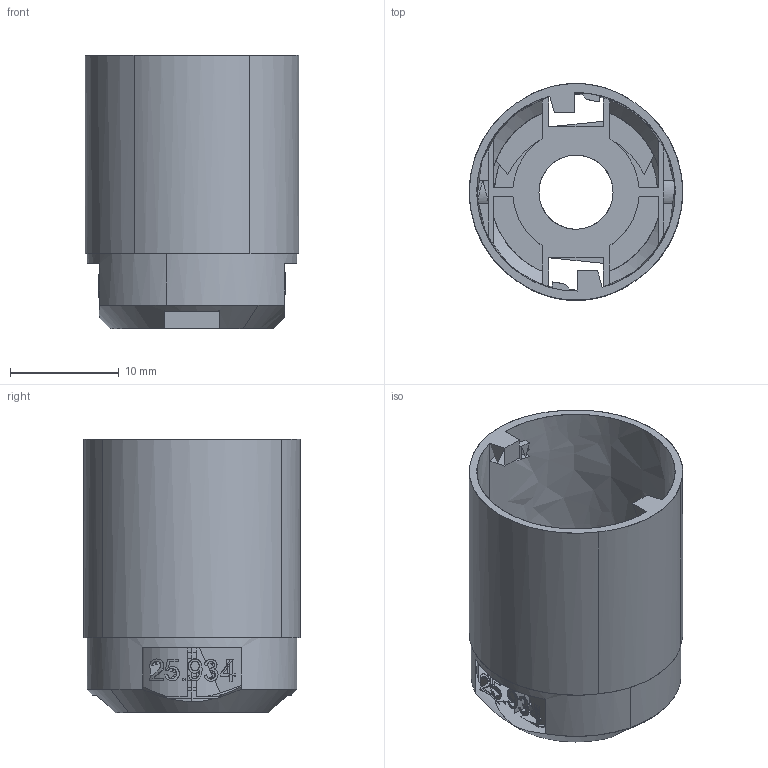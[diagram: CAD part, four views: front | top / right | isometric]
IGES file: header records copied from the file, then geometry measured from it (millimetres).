
Global section: file name: C:\Programme\core_technologie\in\012Y008Y06.igs; native system: CT CoreTechnologie 3D Evolution; preprocessor: 2006; author: assmuth; date: 080418.104844; units: millimetre
Bounding box: 19.6 x 19.87 x 25.1 mm (x, y, z)
Surface area: 3967.5 mm2 (no closed solid volume)
Topology: 0 solids, 0 shells, 231 faces, 1141 edges, 1107 vertices
Faces by surface type: bspline 231
